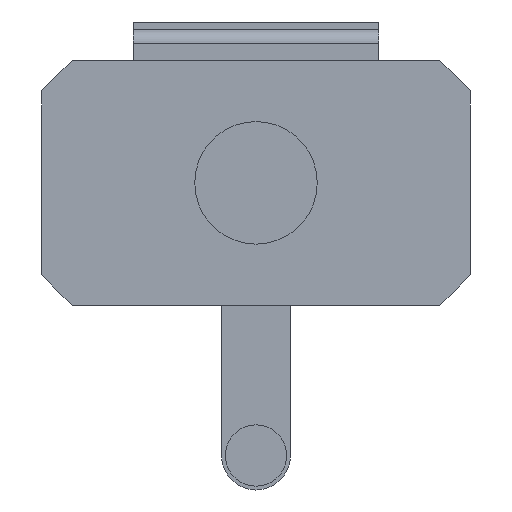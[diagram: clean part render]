
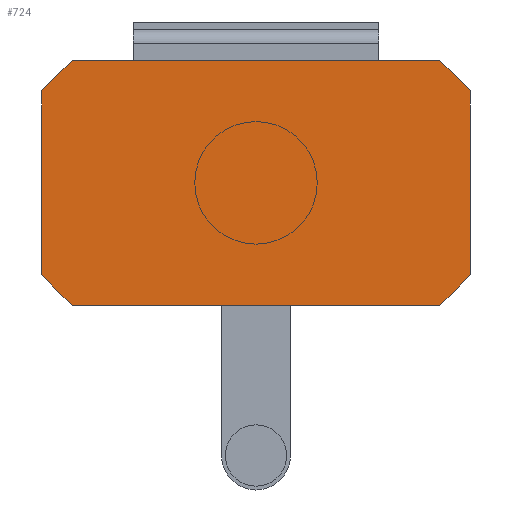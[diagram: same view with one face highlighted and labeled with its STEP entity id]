
A CAD part, front view. The second image highlights one B-rep face of the part: STEP entity #724.
In plain terms, the highlighted planar face has unit normal (0, -1, 0).
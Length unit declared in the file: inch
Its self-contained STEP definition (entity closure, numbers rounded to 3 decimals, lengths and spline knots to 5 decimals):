
#72 = ORIENTED_EDGE ( 'NONE', *, *, #2468, .T. ) ;
#135 = ORIENTED_EDGE ( 'NONE', *, *, #1724, .T. ) ;
#172 = VERTEX_POINT ( 'NONE', #2827 ) ;
#184 = CARTESIAN_POINT ( 'NONE',  ( 3., -0.125, -2. ) ) ;
#240 = ORIENTED_EDGE ( 'NONE', *, *, #422, .T. ) ;
#256 = VERTEX_POINT ( 'NONE', #329 ) ;
#278 = VERTEX_POINT ( 'NONE', #770 ) ;
#329 = CARTESIAN_POINT ( 'NONE',  ( -3., -0.125, -2. ) ) ;
#379 = FACE_OUTER_BOUND ( 'NONE', #2562, .T. ) ;
#422 = EDGE_CURVE ( 'NONE', #172, #256, #1379, .T. ) ;
#608 = CARTESIAN_POINT ( 'NONE',  ( 3.5, -0.125, -1.5 ) ) ;
#610 = ORIENTED_EDGE ( 'NONE', *, *, #1122, .T. ) ;
#611 = EDGE_CURVE ( 'NONE', #2209, #278, #3109, .T. ) ;
#648 = DIRECTION ( 'NONE',  ( 0., 1., 0. ) ) ;
#662 = CARTESIAN_POINT ( 'NONE',  ( -3., -0.125, -2. ) ) ;
#724 = ADVANCED_FACE ( 'NONE', ( #379 ), #2646, .F. ) ;
#770 = CARTESIAN_POINT ( 'NONE',  ( -3., -0.125, 2. ) ) ;
#802 = CARTESIAN_POINT ( 'NONE',  ( -3.5, -0.125, 2. ) ) ;
#829 = CARTESIAN_POINT ( 'NONE',  ( 3.5, -0.125, -2. ) ) ;
#857 = CARTESIAN_POINT ( 'NONE',  ( -3.5, -0.125, 1.5 ) ) ;
#1018 = VERTEX_POINT ( 'NONE', #2922 ) ;
#1057 = CARTESIAN_POINT ( 'NONE',  ( 3.5, -0.125, 1.5 ) ) ;
#1067 = VECTOR ( 'NONE', #2674, 39.37008 ) ;
#1079 = ORIENTED_EDGE ( 'NONE', *, *, #2594, .T. ) ;
#1122 = EDGE_CURVE ( 'NONE', #1018, #172, #1131, .T. ) ;
#1131 = LINE ( 'NONE', #2483, #2731 ) ;
#1360 = DIRECTION ( 'NONE',  ( 0., 0., 1. ) ) ;
#1369 = CARTESIAN_POINT ( 'NONE',  ( 3., -0.125, 2. ) ) ;
#1379 = LINE ( 'NONE', #662, #1866 ) ;
#1482 = DIRECTION ( 'NONE',  ( 1., 0., 0. ) ) ;
#1540 = EDGE_CURVE ( 'NONE', #278, #1018, #3166, .T. ) ;
#1613 = LINE ( 'NONE', #829, #1067 ) ;
#1724 = EDGE_CURVE ( 'NONE', #2248, #2779, #1613, .T. ) ;
#1735 = LINE ( 'NONE', #1943, #2258 ) ;
#1838 = DIRECTION ( 'NONE',  ( -1., 0., 0. ) ) ;
#1866 = VECTOR ( 'NONE', #2413, 39.37008 ) ;
#1943 = CARTESIAN_POINT ( 'NONE',  ( -3.5, -0.125, -2. ) ) ;
#1973 = AXIS2_PLACEMENT_3D ( 'NONE', #3158, #648, #1360 ) ;
#1984 = DIRECTION ( 'NONE',  ( -0.707, 0., 0.707 ) ) ;
#2023 = DIRECTION ( 'NONE',  ( 0.707, 0., 0.707 ) ) ;
#2111 = DIRECTION ( 'NONE',  ( -0.707, 0., -0.707 ) ) ;
#2169 = ORIENTED_EDGE ( 'NONE', *, *, #611, .T. ) ;
#2209 = VERTEX_POINT ( 'NONE', #1369 ) ;
#2241 = LINE ( 'NONE', #3258, #3009 ) ;
#2248 = VERTEX_POINT ( 'NONE', #608 ) ;
#2258 = VECTOR ( 'NONE', #1482, 39.37008 ) ;
#2413 = DIRECTION ( 'NONE',  ( 0.707, 0., -0.707 ) ) ;
#2423 = ORIENTED_EDGE ( 'NONE', *, *, #1540, .T. ) ;
#2465 = DIRECTION ( 'NONE',  ( 0., 0., -1. ) ) ;
#2468 = EDGE_CURVE ( 'NONE', #256, #2929, #1735, .T. ) ;
#2483 = CARTESIAN_POINT ( 'NONE',  ( -3.5, -0.125, -2. ) ) ;
#2562 = EDGE_LOOP ( 'NONE', ( #610, #240, #72, #1079, #135, #2955, #2169, #2423 ) ) ;
#2594 = EDGE_CURVE ( 'NONE', #2929, #2248, #3068, .T. ) ;
#2625 = VECTOR ( 'NONE', #1838, 39.37008 ) ;
#2646 = PLANE ( 'NONE',  #1973 ) ;
#2674 = DIRECTION ( 'NONE',  ( 0., 0., 1. ) ) ;
#2731 = VECTOR ( 'NONE', #2465, 39.37008 ) ;
#2779 = VERTEX_POINT ( 'NONE', #1057 ) ;
#2827 = CARTESIAN_POINT ( 'NONE',  ( -3.5, -0.125, -1.5 ) ) ;
#2922 = CARTESIAN_POINT ( 'NONE',  ( -3.5, -0.125, 1.5 ) ) ;
#2929 = VERTEX_POINT ( 'NONE', #184 ) ;
#2937 = EDGE_CURVE ( 'NONE', #2779, #2209, #2241, .T. ) ;
#2955 = ORIENTED_EDGE ( 'NONE', *, *, #2937, .T. ) ;
#3009 = VECTOR ( 'NONE', #1984, 39.37008 ) ;
#3046 = CARTESIAN_POINT ( 'NONE',  ( 3.5, -0.125, -1.5 ) ) ;
#3068 = LINE ( 'NONE', #3046, #3218 ) ;
#3109 = LINE ( 'NONE', #802, #2625 ) ;
#3158 = CARTESIAN_POINT ( 'NONE',  ( 0., -0.125, 0. ) ) ;
#3166 = LINE ( 'NONE', #857, #3210 ) ;
#3210 = VECTOR ( 'NONE', #2111, 39.37008 ) ;
#3218 = VECTOR ( 'NONE', #2023, 39.37008 ) ;
#3258 = CARTESIAN_POINT ( 'NONE',  ( 3., -0.125, 2. ) ) ;
